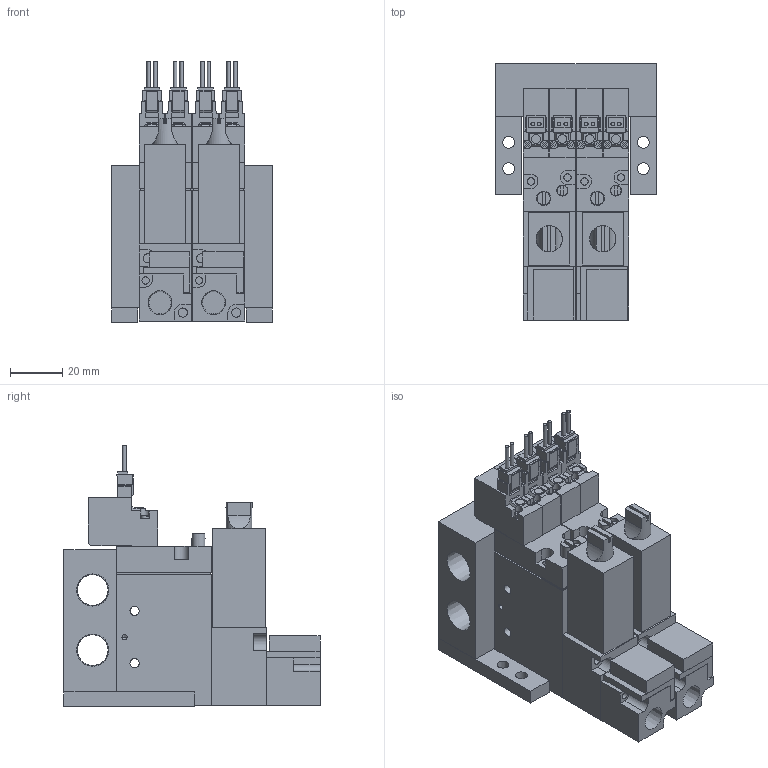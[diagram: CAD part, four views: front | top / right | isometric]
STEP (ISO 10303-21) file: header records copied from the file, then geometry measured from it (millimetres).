
FILE_DESCRIPTION(('STEP AP203'),'1');
FILE_NAME('BMPV32M2NZ25BL202.stp','2025-06-17T01:46:10',(' '),(' '),'Spatial InterOp 3D',' ',' ');
FILE_SCHEMA(('CONFIG_CONTROL_DESIGN'));
Length unit declared in the file: millimetre
Products named in the file (28): BMPV32M2NZ25BL202; S____; ___ ___2; ___-2(Rc); Filter Assy; __; _____; BMPV32 MB02; MB BRACKET; ___; upper plate-A; ______; ____; VACUUM VALVE FUNCTION MPV42-A
Assembly tree (27 placements, depth 2):
  BMPV32M2NZ25BL202
    S____
    ___ ___2
    ___-2(Rc)
    Filter Assy
    __
    _____
    BMPV32 MB02
    MB BRACKET
    MB BRACKET
    S____
    ___ ___2
    ___-2(Rc)
    Filter Assy
    __
    _____
    ___
    upper plate-A
    ______
    ____
    VACUUM VALVE FUNCTION MPV42-A
    VACUUM VALVE FUNCTION MPV42-A
    ___
    upper plate-A
    ______
    ____
    VACUUM VALVE FUNCTION MPV42-A
    VACUUM VALVE FUNCTION MPV42-A
Bounding box: 61.5 x 98 x 99.75 mm (x, y, z)
Volume: 227965.5 mm3; surface area: 79647.5 mm2
Topology: 27 solids, 27 shells, 725 faces, 1890 edges, 1256 vertices
Faces by surface type: plane 577, cylinder 128, cone 20
Full cylindrical faces by diameter (mm): 1.4 x8, 1.8 x4, 2 x4, 2.5 x8, 2.8 x8, 3 x8, 3.5 x24, 4 x2, 4.2 x2, 4.5 x4, 5 x2, 5.5 x2, 6.5 x6, 8.522 x2, 11.776 x2
Entity records: 22892 total; most frequent: CARTESIAN_POINT 3873, DIRECTION 3572, ORIENTED_EDGE 3484, EDGE_CURVE 1742, LINE 1402, VECTOR 1402, VERTEX_POINT 1230, AXIS2_PLACEMENT_3D 1085
